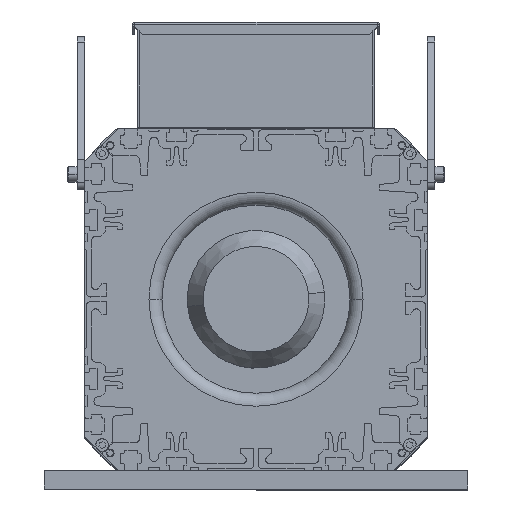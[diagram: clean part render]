
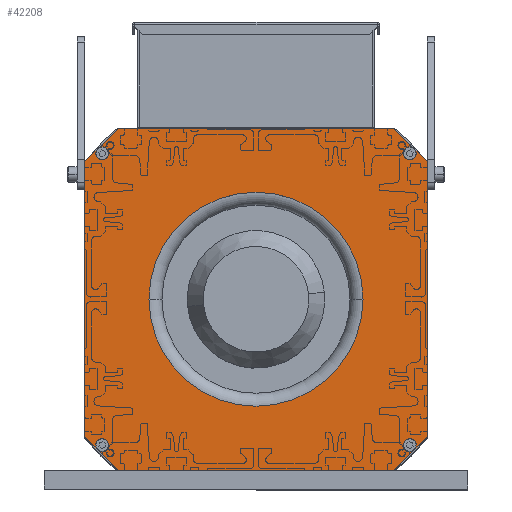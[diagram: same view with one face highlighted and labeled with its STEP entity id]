
A CAD part, top view. The second image highlights one B-rep face of the part: STEP entity #42208.
In plain terms, the highlighted planar face has unit normal (0, 0, 1) as drawn and (-1, 0, 0) by its records, which use the part's own axes.
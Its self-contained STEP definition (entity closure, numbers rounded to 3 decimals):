
#442 = CARTESIAN_POINT ( 'NONE',  ( 0., 112., 90. ) ) ;
#2302 = DIRECTION ( 'NONE',  ( -1., 0., 0. ) ) ;
#3464 = VERTEX_POINT ( 'NONE', #20311 ) ;
#4421 = EDGE_CURVE ( 'NONE', #60232, #13962, #54354, .T. ) ;
#5520 = CARTESIAN_POINT ( 'NONE',  ( 0., -90., -112. ) ) ;
#6454 = ORIENTED_EDGE ( 'NONE', *, *, #6912, .F. ) ;
#6912 = EDGE_CURVE ( 'NONE', #3464, #74323, #64634, .T. ) ;
#8734 = CARTESIAN_POINT ( 'NONE',  ( 0., 0., 0. ) ) ;
#8841 = EDGE_CURVE ( 'NONE', #74323, #59314, #75989, .T. ) ;
#9964 = VECTOR ( 'NONE', #96044, 1000. ) ;
#10895 = LINE ( 'NONE', #68086, #67647 ) ;
#12443 = CARTESIAN_POINT ( 'NONE',  ( 0., -112., -90. ) ) ;
#13962 = VERTEX_POINT ( 'NONE', #442 ) ;
#15381 = CARTESIAN_POINT ( 'NONE',  ( 0., 155., 0. ) ) ;
#16239 = DIRECTION ( 'NONE',  ( 0., 1., 0. ) ) ;
#16495 = LINE ( 'NONE', #50666, #103265 ) ;
#16598 = AXIS2_PLACEMENT_3D ( 'NONE', #17799, #2302, #58400 ) ;
#17799 = CARTESIAN_POINT ( 'NONE',  ( 0., 0., 0. ) ) ;
#20059 = EDGE_CURVE ( 'NONE', #90800, #60232, #35817, .T. ) ;
#20311 = CARTESIAN_POINT ( 'NONE',  ( 0., -112., 90. ) ) ;
#23014 = ORIENTED_EDGE ( 'NONE', *, *, #47225, .F. ) ;
#24055 = CARTESIAN_POINT ( 'NONE',  ( 0., 0., -70. ) ) ;
#26247 = EDGE_CURVE ( 'NONE', #59314, #90800, #33327, .T. ) ;
#26366 = EDGE_LOOP ( 'NONE', ( #42060, #90521, #43549, #38987, #75937, #72805, #6454, #56641 ) ) ;
#27512 = LINE ( 'NONE', #43547, #90018 ) ;
#27591 = AXIS2_PLACEMENT_3D ( 'NONE', #15381, #42605, #65586 ) ;
#31419 = PLANE ( 'NONE',  #27591 ) ;
#33327 = LINE ( 'NONE', #82511, #67624 ) ;
#34443 = CARTESIAN_POINT ( 'NONE',  ( 0., 112., -90. ) ) ;
#35335 = EDGE_CURVE ( 'NONE', #98930, #91159, #57538, .T. ) ;
#35817 = LINE ( 'NONE', #36870, #85989 ) ;
#36870 = CARTESIAN_POINT ( 'NONE',  ( 0., 112., -90. ) ) ;
#38599 = EDGE_LOOP ( 'NONE', ( #75936, #23014 ) ) ;
#38987 = ORIENTED_EDGE ( 'NONE', *, *, #20059, .F. ) ;
#39540 = CARTESIAN_POINT ( 'NONE',  ( 0., -112., 0. ) ) ;
#42060 = ORIENTED_EDGE ( 'NONE', *, *, #101547, .F. ) ;
#42208 = ADVANCED_FACE ( 'NONE', ( #55451, #104696 ), #31419, .F. ) ;
#42605 = DIRECTION ( 'NONE',  ( 1., 0., 0. ) ) ;
#43380 = CARTESIAN_POINT ( 'NONE',  ( 0., -90., -112. ) ) ;
#43547 = CARTESIAN_POINT ( 'NONE',  ( 0., -112., 90. ) ) ;
#43549 = ORIENTED_EDGE ( 'NONE', *, *, #4421, .F. ) ;
#45386 = CARTESIAN_POINT ( 'NONE',  ( 0., -90., 112. ) ) ;
#47225 = EDGE_CURVE ( 'NONE', #91159, #98930, #91053, .T. ) ;
#48359 = AXIS2_PLACEMENT_3D ( 'NONE', #8734, #48792, #97470 ) ;
#48792 = DIRECTION ( 'NONE',  ( -1., 0., 0. ) ) ;
#49611 = DIRECTION ( 'NONE',  ( 0., -1., 0. ) ) ;
#50666 = CARTESIAN_POINT ( 'NONE',  ( 0., 155., 112. ) ) ;
#54354 = LINE ( 'NONE', #63446, #9964 ) ;
#55451 = FACE_BOUND ( 'NONE', #38599, .T. ) ;
#56641 = ORIENTED_EDGE ( 'NONE', *, *, #81202, .F. ) ;
#57538 = CIRCLE ( 'NONE', #16598, 70. ) ;
#58361 = CARTESIAN_POINT ( 'NONE',  ( 0., 90., -112. ) ) ;
#58400 = DIRECTION ( 'NONE',  ( 0., 0., 1. ) ) ;
#59314 = VERTEX_POINT ( 'NONE', #5520 ) ;
#60014 = VECTOR ( 'NONE', #79650, 1000. ) ;
#60232 = VERTEX_POINT ( 'NONE', #34443 ) ;
#63446 = CARTESIAN_POINT ( 'NONE',  ( 0., 112., 0. ) ) ;
#64578 = VECTOR ( 'NONE', #92014, 1000. ) ;
#64634 = LINE ( 'NONE', #39540, #60014 ) ;
#64894 = EDGE_CURVE ( 'NONE', #13962, #85999, #10895, .T. ) ;
#65586 = DIRECTION ( 'NONE',  ( 0., 0., -1. ) ) ;
#67624 = VECTOR ( 'NONE', #16239, 1000. ) ;
#67647 = VECTOR ( 'NONE', #76646, 1000. ) ;
#67897 = DIRECTION ( 'NONE',  ( 0., 0.707, 0.707 ) ) ;
#68086 = CARTESIAN_POINT ( 'NONE',  ( 0., 90., 112. ) ) ;
#69293 = VERTEX_POINT ( 'NONE', #45386 ) ;
#72805 = ORIENTED_EDGE ( 'NONE', *, *, #8841, .F. ) ;
#74323 = VERTEX_POINT ( 'NONE', #12443 ) ;
#75936 = ORIENTED_EDGE ( 'NONE', *, *, #35335, .F. ) ;
#75937 = ORIENTED_EDGE ( 'NONE', *, *, #26247, .F. ) ;
#75989 = LINE ( 'NONE', #43380, #64578 ) ;
#76490 = CARTESIAN_POINT ( 'NONE',  ( 0., 90., 112. ) ) ;
#76646 = DIRECTION ( 'NONE',  ( 0., -0.707, 0.707 ) ) ;
#79182 = CARTESIAN_POINT ( 'NONE',  ( 0., 0., 70. ) ) ;
#79650 = DIRECTION ( 'NONE',  ( 0., 0., -1. ) ) ;
#81202 = EDGE_CURVE ( 'NONE', #69293, #3464, #27512, .T. ) ;
#82511 = CARTESIAN_POINT ( 'NONE',  ( 0., 155., -112. ) ) ;
#85989 = VECTOR ( 'NONE', #67897, 1000. ) ;
#85999 = VERTEX_POINT ( 'NONE', #76490 ) ;
#90018 = VECTOR ( 'NONE', #93237, 1000. ) ;
#90521 = ORIENTED_EDGE ( 'NONE', *, *, #64894, .F. ) ;
#90800 = VERTEX_POINT ( 'NONE', #58361 ) ;
#91053 = CIRCLE ( 'NONE', #48359, 70. ) ;
#91159 = VERTEX_POINT ( 'NONE', #24055 ) ;
#92014 = DIRECTION ( 'NONE',  ( 0., 0.707, -0.707 ) ) ;
#93237 = DIRECTION ( 'NONE',  ( 0., -0.707, -0.707 ) ) ;
#96044 = DIRECTION ( 'NONE',  ( 0., 0., 1. ) ) ;
#97470 = DIRECTION ( 'NONE',  ( 0., 0., 1. ) ) ;
#98930 = VERTEX_POINT ( 'NONE', #79182 ) ;
#101547 = EDGE_CURVE ( 'NONE', #85999, #69293, #16495, .T. ) ;
#103265 = VECTOR ( 'NONE', #49611, 1000. ) ;
#104696 = FACE_OUTER_BOUND ( 'NONE', #26366, .T. ) ;
